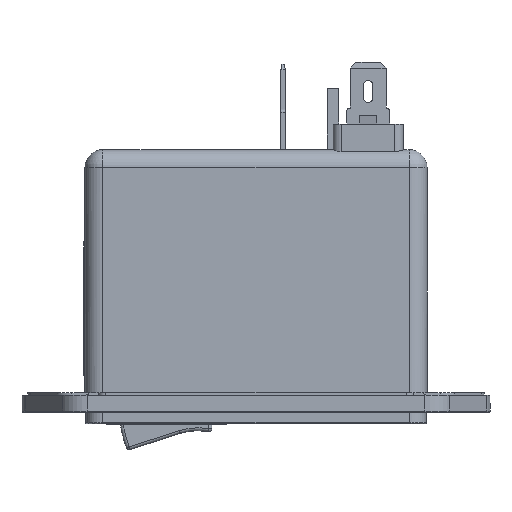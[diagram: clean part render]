
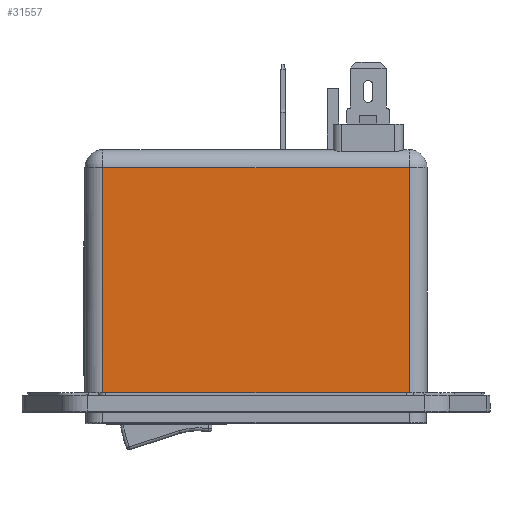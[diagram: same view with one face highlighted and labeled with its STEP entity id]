
A CAD part, left-side view. The second image highlights one B-rep face of the part: STEP entity #31557.
In plain terms, the highlighted planar face has unit normal (-1, 0, 0).
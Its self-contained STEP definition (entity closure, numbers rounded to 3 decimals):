
#29244=CARTESIAN_POINT('',(-14.25,-8.775,64.225));
#29245=VERTEX_POINT('',#29244);
#29253=CARTESIAN_POINT('',(-14.25,-8.775,24.775));
#29254=VERTEX_POINT('',#29253);
#29255=CARTESIAN_POINT('',(-14.25,-8.775,64.225));
#29256=DIRECTION('',(0.0,0.0,-1.0));
#29257=VECTOR('',#29256,39.45);
#29258=LINE('',#29255,#29257);
#29259=EDGE_CURVE('',#29245,#29254,#29258,.T.);
#29563=CARTESIAN_POINT('',(-14.25,44.875,24.775));
#29564=VERTEX_POINT('',#29563);
#29565=CARTESIAN_POINT('',(-14.25,-8.775,24.775));
#29566=DIRECTION('',(0.0,1.0,0.0));
#29567=VECTOR('',#29566,53.65);
#29568=LINE('',#29565,#29567);
#29569=EDGE_CURVE('',#29254,#29564,#29568,.T.);
#30863=CARTESIAN_POINT('',(-14.25,44.875,64.225));
#30864=VERTEX_POINT('',#30863);
#30908=CARTESIAN_POINT('',(-14.25,44.875,24.775));
#30909=DIRECTION('',(0.0,0.0,1.0));
#30910=VECTOR('',#30909,39.45);
#30911=LINE('',#30908,#30910);
#30912=EDGE_CURVE('',#29564,#30864,#30911,.T.);
#30928=CARTESIAN_POINT('',(-14.25,44.875,64.225));
#30929=DIRECTION('',(0.0,-1.0,0.0));
#30930=VECTOR('',#30929,53.65);
#30931=LINE('',#30928,#30930);
#30932=EDGE_CURVE('',#30864,#29245,#30931,.T.);
#31546=CARTESIAN_POINT('',(-14.25,-11.925,24.775));
#31547=DIRECTION('',(-1.0,0.0,0.0));
#31548=DIRECTION('',(0.0,0.0,1.0));
#31549=AXIS2_PLACEMENT_3D('',#31546,#31547,#31548);
#31550=PLANE('',#31549);
#31551=ORIENTED_EDGE('',*,*,#30912,.F.);
#31552=ORIENTED_EDGE('',*,*,#29569,.F.);
#31553=ORIENTED_EDGE('',*,*,#29259,.F.);
#31554=ORIENTED_EDGE('',*,*,#30932,.F.);
#31555=EDGE_LOOP('',(#31551,#31552,#31553,#31554));
#31556=FACE_OUTER_BOUND('',#31555,.T.);
#31557=ADVANCED_FACE('',(#31556),#31550,.T.);
